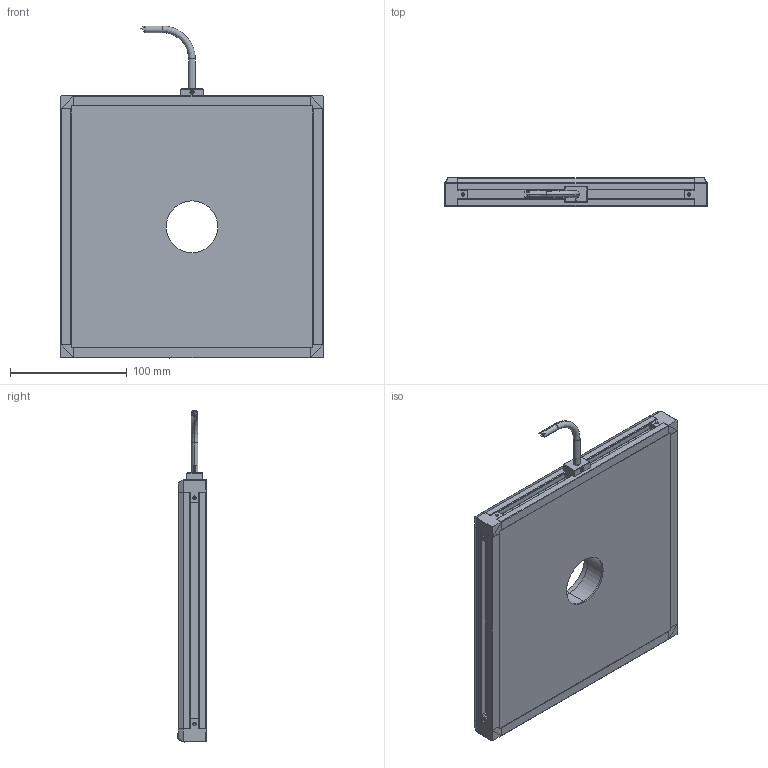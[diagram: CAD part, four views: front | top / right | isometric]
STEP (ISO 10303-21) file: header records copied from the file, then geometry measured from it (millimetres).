
FILE_DESCRIPTION (( 'STEP AP214' ), '1' );
FILE_NAME ('FDXXYY _EVEN__FD0808.stp', '2021-05-14T17:20:59', ( '' ), ( '' ), 'SwSTEP 2.0', 'SolidWorks 2018', '' );
FILE_SCHEMA (( 'AUTOMOTIVE_DESIGN' ));
Length unit declared in the file: inch
Products named in the file (16): 091319-XXYY_091319-0808; 15mm Swish (BLXXYY)_Default<As Machined>; 090224; SSS-M4_91390A111; 129-01-004-XX_129-01-004-08; 091306_Default<As Machined>; 092408_TRUNCATED; 091307_Default<As Machined>; BH-440X1_4_91239A704; 15mm Advanced illumination (BLXXYY); 091053 (BLXXYY); FDXXYY _EVEN__FD0808; 15mm Ai (BLXXYY); 129-20-003-XX_129-20-003-08; 091318-XXYY_091318-0808; 15mm Label (BLXXYY)_Default<As Machined>
Assembly tree (28 placements, depth 3):
  FDXXYY _EVEN__FD0808
    091319-XXYY_091319-0808
    090224
    129-01-004-XX_129-01-004-08
    091307_Default<As Machined>
    BH-440X1_4_91239A704
    SSS-M4_91390A111  x9
    091306_Default<As Machined>  x4
    129-20-003-XX_129-20-003-08  x3
    091318-XXYY_091318-0808
    091053 (BLXXYY)
      15mm Label (BLXXYY)_Default<As Machined>
      15mm Ai (BLXXYY)
      15mm Swish (BLXXYY)_Default<As Machined>
      15mm Advanced illumination (BLXXYY)
    092408_TRUNCATED
Bounding box: 224.59 x 24.09 x 284.51 mm (x, y, z)
Volume: 442261.6 mm3; surface area: 277939.3 mm2
Topology: 58 solids, 58 shells, 1803 faces, 4217 edges, 2507 vertices
Faces by surface type: plane 728, cylinder 476, cone 464, bspline 125, sphere 6, torus 4
Entity records: 35929 total; most frequent: CARTESIAN_POINT 14939, ORIENTED_EDGE 4200, DIRECTION 3578, EDGE_CURVE 2100, VERTEX_POINT 1317, VECTOR 1270, LINE 1270, AXIS2_PLACEMENT_3D 1154
